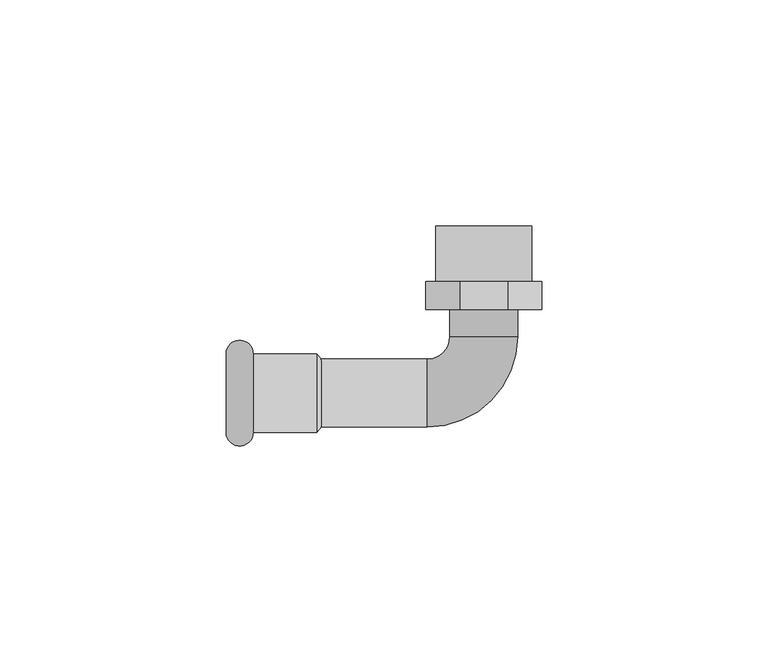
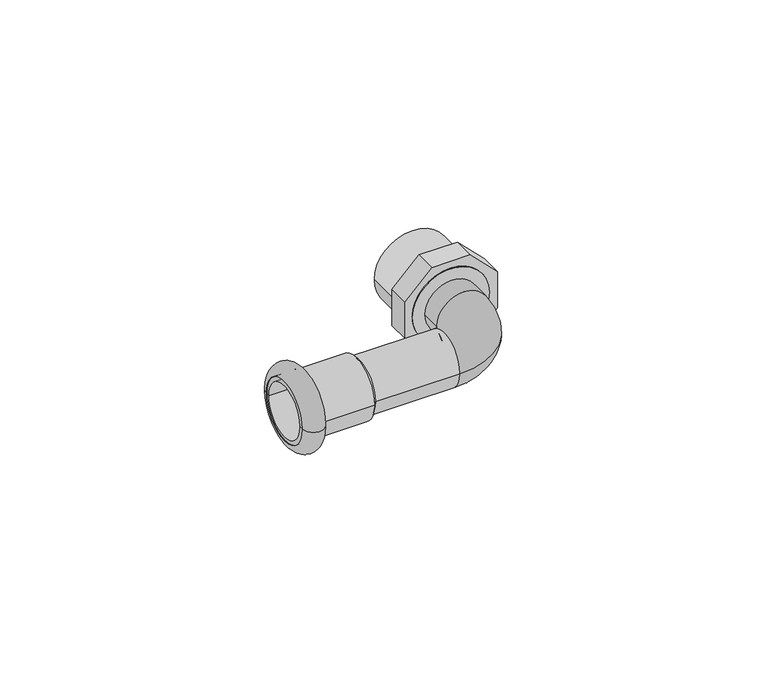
"""IFC4 building model written with IfcOpenShell, lengths in millimetres: pipe fitting geometry."""

import ifcopenshell
import ifcopenshell.guid

model = None  # the IFC model being written
_history = None  # IfcOwnerHistory: only IFC2X3 demands one
_inside = {}  # id of a spatial element -> (the spatial element, [elements in it])
_under = {}  # id of a project, library or spatial element -> (it, [spatial elements below it])
_declared = {}  # id of a project -> (the project, [libraries it declares])
_typed = {}  # id of a type object -> (the type object, [elements of that type])
_made_of = {}  # id of a material, layer set ... -> (it, [elements and type objects made of it])


def new_model(schema):
    """Start an empty IFC model of exactly this schema.

    Asked for "IFC4X3", IfcOpenShell would pick the latest addendum, in which some entities
    have other attributes; the version numbers below select the first issue.
    IFC2X3 requires an IfcOwnerHistory on every rooted entity: one is made here for all.
    """
    global model, _history
    if schema == "IFC4X3":
        model = ifcopenshell.file(schema_version=(4, 3, 0, 0))
    else:
        model = ifcopenshell.file(schema=schema)
    _inside.clear()
    _under.clear()
    _declared.clear()
    _typed.clear()
    _made_of.clear()
    _history = None
    if model.schema == "IFC2X3":
        org = make("IfcOrganization", Name="unknown")
        user = make(
            "IfcPersonAndOrganization",
            ThePerson=make("IfcPerson", FamilyName="unknown"),
            TheOrganization=org,
        )
        app = make(
            "IfcApplication",
            ApplicationDeveloper=org,
            Version="unknown",
            ApplicationFullName="unknown",
            ApplicationIdentifier="unknown",
        )
        _history = make(
            "IfcOwnerHistory",
            OwningUser=user,
            OwningApplication=app,
            ChangeAction="ADDED",
            CreationDate=0,
        )
    return model


def make(cls, **values):
    """One entity of the class cls with the attributes given. An attribute that is None is left unset."""
    return model.create_entity(
        cls, **{name: value for name, value in values.items() if value is not None}
    )


def rooted(cls, **values):
    """An entity with a GlobalId (a new one), such as an element, a storey or a relation."""
    return make(cls, GlobalId=ifcopenshell.guid.new(), OwnerHistory=_history, **values)


def si_unit(unit_type, name, prefix=None):
    """IfcSIUnit, for example si_unit("LENGTHUNIT", "METRE", prefix="MILLI")."""
    return make("IfcSIUnit", UnitType=unit_type, Prefix=prefix, Name=name)


def assignment(units):
    """IfcUnitAssignment: the units of a project."""
    return None if units is None else make("IfcUnitAssignment", Units=units)


def point(xyz):
    """IfcCartesianPoint."""
    return None if xyz is None else make("IfcCartesianPoint", Coordinates=xyz)


def direction(xyz):
    """IfcDirection."""
    return None if xyz is None else make("IfcDirection", DirectionRatios=xyz)


def frame(location, z_axis=None, x_axis=None):
    """IfcAxis2Placement3D, a coordinate frame: its origin and axes. An axis left out is left unset."""
    return make(
        "IfcAxis2Placement3D",
        Location=point(location),
        Axis=direction(z_axis),
        RefDirection=direction(x_axis),
    )


def frame_2d(location, x_axis=None):
    """IfcAxis2Placement2D, a coordinate frame in the plane: its origin and x axis."""
    return make(
        "IfcAxis2Placement2D", Location=point(location), RefDirection=direction(x_axis)
    )


def origin():
    """The frame at (0, 0, 0) with its axes left unset."""
    return frame((0.0, 0.0, 0.0))


def origin_2d():
    """The frame at (0, 0) in the plane with its x axis left unset."""
    return frame_2d((0.0, 0.0))


def place(relative_to, where):
    """IfcLocalPlacement: puts the frame where relative to a parent placement (None: the world)."""
    return make(
        "IfcLocalPlacement", PlacementRelTo=relative_to, RelativePlacement=where
    )


def context(
    kind, dimensions, precision=None, world=None, true_north=None, identifier=None
):
    """IfcGeometricRepresentationContext, for example the 3D "Model" context."""
    return make(
        "IfcGeometricRepresentationContext",
        ContextIdentifier=identifier,
        ContextType=kind,
        CoordinateSpaceDimension=dimensions,
        Precision=precision,
        WorldCoordinateSystem=world,
        TrueNorth=true_north,
    )


def project(units=None, contexts=None):
    """IfcProject with its units and contexts."""
    return rooted(
        "IfcProject",
        Name="project",
        RepresentationContexts=contexts,
        UnitsInContext=assignment(units),
    )


def spatial(cls, under=None, at=None, **own):
    """A site, building, storey or space (cls), placed at a placement, below another one or the project."""
    s = rooted(cls, ObjectPlacement=at, **own)
    if under is not None:
        _under.setdefault(under.id(), (under, []))[1].append(s)
    return s


def polyline(points):
    """IfcPolyline through the points."""
    return make("IfcPolyline", Points=[point(p) for p in points])


def circle_curve(where, radius):
    """IfcCircle in the frame where."""
    return make("IfcCircle", Position=where, Radius=radius)


def ellipse_curve(where, semi_axis1, semi_axis2):
    """IfcEllipse in the frame where."""
    return make(
        "IfcEllipse", Position=where, SemiAxis1=semi_axis1, SemiAxis2=semi_axis2
    )


def trimmed(basis, trim1, trim2, sense, master):
    """IfcTrimmedCurve: the piece of a basis curve between two trims."""
    return make(
        "IfcTrimmedCurve",
        BasisCurve=basis,
        Trim1=trim1,
        Trim2=trim2,
        SenseAgreement=sense,
        MasterRepresentation=master,
    )


def segment(curve, same_sense, transition):
    """IfcCompositeCurveSegment."""
    return make(
        "IfcCompositeCurveSegment",
        Transition=transition,
        SameSense=same_sense,
        ParentCurve=curve,
    )


def composite_curve(segments, self_intersect=None):
    """IfcCompositeCurve: segments joined end to end."""
    return make("IfcCompositeCurve", Segments=segments, SelfIntersect=self_intersect)


def outline(outer, holes=None, kind="AREA"):
    """IfcArbitraryClosedProfileDef: a profile drawn as a closed curve; with holes, ...WithVoids."""
    if holes is None:
        return make("IfcArbitraryClosedProfileDef", ProfileType=kind, OuterCurve=outer)
    return make(
        "IfcArbitraryProfileDefWithVoids",
        ProfileType=kind,
        OuterCurve=outer,
        InnerCurves=holes,
    )


def extrude(swept, where, along, depth):
    """IfcExtrudedAreaSolid: the profile swept, set in the frame where, extruded along a direction by depth."""
    return make(
        "IfcExtrudedAreaSolid",
        SweptArea=swept,
        Position=where,
        ExtrudedDirection=direction(along),
        Depth=depth,
    )


def shape(context_of_items, identifier, shape_type, items):
    """IfcShapeRepresentation: the items that make up one representation, for example the "Body"."""
    return make(
        "IfcShapeRepresentation",
        ContextOfItems=context_of_items,
        RepresentationIdentifier=identifier,
        RepresentationType=shape_type,
        Items=items,
    )


def source(mapping_origin, context_of_items, identifier, shape_type, items):
    """IfcRepresentationMap: a shape defined once, which mapped items show again and again."""
    return make(
        "IfcRepresentationMap",
        MappingOrigin=mapping_origin,
        MappedRepresentation=shape(context_of_items, identifier, shape_type, items),
    )


def transform(
    local_origin,
    x_axis=None,
    y_axis=None,
    z_axis=None,
    scale=None,
    scale2=None,
    scale3=None,
    uniform=True,
):
    """IfcCartesianTransformationOperator3D, or its non-uniform kind. x_axis, y_axis, z_axis: its Axis1, 2, 3."""
    if uniform:
        return make(
            "IfcCartesianTransformationOperator3D",
            Axis1=direction(x_axis),
            Axis2=direction(y_axis),
            LocalOrigin=point(local_origin),
            Scale=scale,
            Axis3=direction(z_axis),
        )
    return make(
        "IfcCartesianTransformationOperator3DnonUniform",
        Axis1=direction(x_axis),
        Axis2=direction(y_axis),
        LocalOrigin=point(local_origin),
        Scale=scale,
        Axis3=direction(z_axis),
        Scale2=scale2,
        Scale3=scale3,
    )


def mapped(mapping_source, mapping_target):
    """IfcMappedItem: shows the shape of a source again, moved by a transform."""
    return make(
        "IfcMappedItem", MappingSource=mapping_source, MappingTarget=mapping_target
    )


def made_of(thing, what):
    """Note that an element or type object is made of a material, layer set ...; save() writes the relation."""
    if what is not None:
        _made_of.setdefault(what.id(), (what, []))[1].append(thing)
    return thing


def element(
    cls,
    number,
    at=None,
    inside=None,
    cuts=None,
    type_object=None,
    material=None,
    context=None,
    identifier="Body",
    shape_type=None,
    held_by="IfcProductDefinitionShape",
    body=None,
    shapes=None,
    **own,
):
    """One element of the class cls, such as IfcWall. Its Tag is "e" and its number.

    at: its placement. inside: the storey or other place that contains it. cuts: it is an
    opening in that element (IfcRelVoidsElement). A single representation is given by context,
    identifier, shape_type and body (its items); several are given by shapes. held_by: the class
    of the entity that holds the representations. save() writes the other relations.
    """
    e = rooted(cls, Tag="e%d" % number, ObjectPlacement=at, **own)
    if body is not None:
        shapes = [shape(context, identifier, shape_type, body)]
    if shapes is not None:
        e.Representation = make(held_by, Representations=shapes)
    if inside is not None:
        _inside.setdefault(inside.id(), (inside, []))[1].append(e)
    if cuts is not None:
        rooted(
            "IfcRelVoidsElement", RelatingBuildingElement=cuts, RelatedOpeningElement=e
        )
    if type_object is not None:
        _typed.setdefault(type_object.id(), (type_object, []))[1].append(e)
    return made_of(e, material)


def aggregate(whole, parts):
    """IfcRelAggregates: a whole, such as a stair, and the parts it consists of."""
    return rooted("IfcRelAggregates", RelatingObject=whole, RelatedObjects=parts)


def save(model, path):
    """Write the relations noted so far, then the file.

    IfcRelAggregates (storeys below a building ...), IfcRelContainedInSpatialStructure (elements
    in a storey), IfcRelDefinesByType, IfcRelAssociatesMaterial and IfcRelDeclares: one each for
    every whole, place, type object, material and project.
    """
    for whole, parts in _under.values():
        aggregate(whole, parts)
    for where, things in _inside.values():
        rooted(
            "IfcRelContainedInSpatialStructure",
            RelatedElements=things,
            RelatingStructure=where,
        )
    for kind, things in _typed.values():
        rooted("IfcRelDefinesByType", RelatedObjects=things, RelatingType=kind)
    for what, things in _made_of.values():
        rooted("IfcRelAssociatesMaterial", RelatedObjects=things, RelatingMaterial=what)
    for by, libraries in _declared.values():
        rooted("IfcRelDeclares", RelatingContext=by, RelatedDefinitions=libraries)
    model.write(path)


def plane_surface(at):
    """IfcPlane: the flat surface through the origin of the frame at, square to its z axis."""
    return make("IfcPlane", Position=at)


def cylinder_surface(at, radius):
    """IfcCylindricalSurface: all points at the distance radius from the z axis of the frame at."""
    return make("IfcCylindricalSurface", Position=at, Radius=radius)


def revolved_surface(curve, axis_point, axis_direction):
    """IfcSurfaceOfRevolution: the curve turned about the line through axis_point along axis_direction."""
    return make(
        "IfcSurfaceOfRevolution",
        SweptCurve=make("IfcArbitraryOpenProfileDef", ProfileType="CURVE", Curve=curve),
        AxisPosition=make("IfcAxis1Placement", Location=point(axis_point), Axis=direction(axis_direction)),
    )


def advanced_brep(points, edges, surfaces, faces):
    """IfcAdvancedBrep: a solid bounded by faces that lie on surfaces and meet in shared edges.

    An edge is (start, end): straight between two places in points (the first is 0);
    or (start, end, curve); or (start, end, curve, False) where it runs against its curve.
    A face is (place in surfaces, loops), or (place, loops, False) where it looks against
    its surface's normal. A loop lists edges by number (the first is 1), with a minus sign
    where the edge is run from its end to its start. The first loop is the outer one.
    """
    corners = [point(p) for p in points]
    vertices = [make("IfcVertexPoint", VertexGeometry=c) for c in corners]
    made = []
    for start, end, *more in edges:
        made.append(
            make(
                "IfcEdgeCurve",
                EdgeStart=vertices[start],
                EdgeEnd=vertices[end],
                EdgeGeometry=more[0] if more else make("IfcPolyline", Points=[corners[start], corners[end]]),
                SameSense=more[1] if len(more) > 1 else True,
            )
        )
    hull = []
    for where, loops, *sense in faces:
        bounds = []
        for j, loop in enumerate(loops):
            ring = [make("IfcOrientedEdge", EdgeElement=made[abs(k) - 1], Orientation=k > 0) for k in loop]
            bounds.append(
                make(
                    "IfcFaceOuterBound" if j == 0 else "IfcFaceBound",
                    Bound=make("IfcEdgeLoop", EdgeList=ring),
                    Orientation=True,
                )
            )
        hull.append(make("IfcAdvancedFace", Bounds=bounds, FaceSurface=surfaces[where], SameSense=sense[0] if sense else True))
    return make("IfcAdvancedBrep", Outer=make("IfcClosedShell", CfsFaces=hull))


def pipe_fitting_1523a521(model_context):
    return source(origin(), model_context, "Body", "SolidModel", [
        advanced_brep(
        [(-57.0, 8.7, 0.0), (-57.0, -8.7, 0.0), (-50.9987073, -8.7, 0.0), (-50.9987073, 8.7, 0.0)],
        [
            (0, 1, circle_curve(frame((-57.0, 0.0, 0.0), z_axis=(-1.0, 0.0, 0.0), x_axis=(0.0, -1.0, 0.0)), 8.7)),
            (1, 2),
            (2, 3, circle_curve(frame((-50.9987073, 0.0, 0.0), z_axis=(1.0, 0.0, 0.0), x_axis=(0.0, -1.0, 0.0)), 8.7)),
            (3, 0),
            (1, 0, circle_curve(frame((-57.0, 0.0, 0.0), z_axis=(-1.0, 0.0, 0.0), x_axis=(0.0, -1.0, 0.0)), 8.7)),
            (3, 2, circle_curve(frame((-50.9987073, 0.0, 0.0), z_axis=(1.0, 0.0, 0.0), x_axis=(0.0, -1.0, 0.0)), 8.7)),
            (2, 1, circle_curve(frame((-53.9993536, -8.7, 0.0), z_axis=(0.0, 0.0, -1.0), x_axis=(-1.0, 0.0, 0.0)), 3.0006464)),
            (0, 3, circle_curve(frame((-53.9993536, 8.7, 0.0), z_axis=(0.0, 0.0, -1.0), x_axis=(-1.0, 0.0, 0.0)), 3.0006464)),
        ],
        [
            revolved_surface(polyline([(-50.9987073, -8.7, 0.0), (-57.0, -8.7, 0.0)]), (-37.0, 0.0, 0.0), (1.0, 0.0, 0.0)),
            revolved_surface(trimmed(ellipse_curve(frame((-53.9993536, -8.7, 0.0), z_axis=(0.0, 0.0, 1.0), x_axis=(-1.0, 0.0, 0.0)), 3.0006464, 3.0006464), [point((-57.0, -8.7, 0.0))], [point((-50.9987073, -8.7, 0.0))], True, "CARTESIAN"), (-37.0, 0.0, 0.0), (1.0, 0.0, 0.0)),
        ],
        [
            (0, [[1, 2, 3, 4]]),
            (0, [[5, -4, 6, -2]]),
            (1, [[-3, 7, -1, 8]]),
            (1, [[-6, -8, -5, -7]]),
        ],
    ),
        advanced_brep(
        [(-57.0, 7.5, 0.0), (-57.0, -7.5, 0.0), (-36.0, -7.5, 0.0), (-36.0, 7.5, 0.0), (-57.0, 8.7, 0.0), (-57.0, -8.7, 0.0), (-37.0, 8.7, 0.0), (-37.0, -8.7, 0.0)],
        [
            (0, 1, circle_curve(frame((-57.0, 0.0, 0.0), z_axis=(-1.0, 0.0, 0.0), x_axis=(0.0, -1.0, 0.0)), 7.5)),
            (1, 2),
            (2, 3, circle_curve(frame((-36.0, 0.0, 0.0), z_axis=(1.0, 0.0, 0.0), x_axis=(0.0, -1.0, 0.0)), 7.5)),
            (3, 0),
            (1, 0, circle_curve(frame((-57.0, 0.0, 0.0), z_axis=(-1.0, 0.0, 0.0), x_axis=(0.0, -1.0, 0.0)), 7.5)),
            (3, 2, circle_curve(frame((-36.0, 0.0, 0.0), z_axis=(1.0, 0.0, 0.0), x_axis=(0.0, -1.0, 0.0)), 7.5)),
            (4, 5, circle_curve(frame((-57.0, 0.0, 0.0), z_axis=(-1.0, 0.0, 0.0), x_axis=(0.0, -1.0, 0.0)), 8.7)),
            (5, 1),
            (0, 4),
            (5, 4, circle_curve(frame((-57.0, 0.0, 0.0), z_axis=(-1.0, 0.0, 0.0), x_axis=(0.0, -1.0, 0.0)), 8.7)),
            (6, 7, circle_curve(frame((-37.0, 0.0, 0.0), z_axis=(-1.0, 0.0, 0.0), x_axis=(0.0, -1.0, 0.0)), 8.7)),
            (7, 5),
            (4, 6),
            (7, 6, circle_curve(frame((-37.0, 0.0, 0.0), z_axis=(-1.0, 0.0, 0.0), x_axis=(0.0, -1.0, 0.0)), 8.7)),
            (2, 7),
            (6, 3),
        ],
        [
            revolved_surface(polyline([(-36.0, -7.5, 0.0), (-57.0, -7.5, 0.0)]), (-37.0, 0.0, 0.0), (1.0, 0.0, 0.0)),
            plane_surface(frame((-57.0, 0.0, 0.0), z_axis=(-1.0, 0.0, 0.0), x_axis=(0.0, -1.0, 0.0))),
            cylinder_surface(frame((-37.0, 0.0, 0.0), z_axis=(1.0, 0.0, 0.0), x_axis=(0.0, -1.0, 0.0)), 8.7),
            revolved_surface(polyline([(-37.0, -8.7, 0.0), (-36.0, -7.5, 0.0)]), (-37.0, 0.0, 0.0), (1.0, 0.0, 0.0)),
        ],
        [
            (0, [[1, 2, 3, 4]]),
            (0, [[5, -4, 6, -2]]),
            (1, [[7, 8, -1, 9]]),
            (1, [[10, -9, -5, -8]]),
            (2, [[11, 12, -7, 13]]),
            (2, [[14, -13, -10, -12]]),
            (3, [[-3, 15, -11, 16]]),
            (3, [[-6, -16, -14, -15]]),
        ],
    ),
        extrude(outline(composite_curve([segment(trimmed(circle_curve(origin_2d(), 10.65), [point((0.0, 10.65))], [point((0.0, -10.65))], False, "CARTESIAN"), True, "CONTINUOUS"), segment(trimmed(circle_curve(origin_2d(), 10.65), [point((0.0, -10.65))], [point((0.0, 10.65))], False, "CARTESIAN"), True, "CONTINUOUS")], self_intersect=False)), frame((0.0, 18.5, 0.0), z_axis=(0.0, 1.0, 0.0), x_axis=(0.0, 0.0, 1.0)), (0.0, 0.0, 1.0), 18.5),
        extrude(outline(polyline([(5.325, -12.8556872), (-5.325, -12.8556872), (-12.8556872, -5.325), (-12.8556872, 5.325), (-5.325, 12.8556872), (5.325, 12.8556872), (12.8556872, 5.325), (12.8556872, -5.325), (5.325, -12.8556872)]), holes=[composite_curve([segment(trimmed(circle_curve(origin_2d(), 10.65), [point((0.0, 10.65))], [point((0.0, -10.65))], True, "CARTESIAN"), True, "CONTINUOUS"), segment(trimmed(circle_curve(origin_2d(), 10.65), [point((0.0, -10.65))], [point((0.0, 10.65))], True, "CARTESIAN"), True, "CONTINUOUS")], self_intersect=False)]), frame((0.0, 18.5, 0.0), z_axis=(0.0, 1.0, 0.0), x_axis=(0.0, 0.0, 1.0)), (0.0, 0.0, 1.0), 6.1666667),
        advanced_brep(
        [(-7.5, 37.0, 0.0), (7.5, 37.0, 0.0), (-7.5, 12.5, 0.0), (7.5, 12.5, 0.0), (-12.5, -7.5, 0.0), (-12.5, 7.5, 0.0), (-37.0, 7.5, 0.0), (-37.0, -7.5, 0.0)],
        [
            (0, 1, circle_curve(frame((0.0, 37.0, 0.0), z_axis=(0.0, 1.0, 0.0), x_axis=(1.0, 0.0, 0.0)), 7.5)),
            (1, 0, circle_curve(frame((0.0, 37.0, 0.0), z_axis=(0.0, 1.0, 0.0), x_axis=(1.0, 0.0, 0.0)), 7.5)),
            (0, 2),
            (2, 3, circle_curve(frame((0.0, 12.5, 0.0), z_axis=(0.0, 1.0, 0.0), x_axis=(1.0, 0.0, 0.0)), 7.5)),
            (3, 1),
            (3, 2, circle_curve(frame((0.0, 12.5, 0.0), z_axis=(0.0, 1.0, 0.0), x_axis=(1.0, 0.0, 0.0)), 7.5)),
            (4, 3, circle_curve(frame((-12.5, 12.5, 0.0), z_axis=(0.0, 0.0, 1.0), x_axis=(1.0, 0.0, 0.0)), 20.0)),
            (2, 5, circle_curve(frame((-12.5, 12.5, 0.0), z_axis=(0.0, 0.0, -1.0), x_axis=(1.0, 0.0, 0.0)), 5.0)),
            (5, 4, circle_curve(frame((-12.5, 0.0, 0.0), z_axis=(1.0, 0.0, 0.0), x_axis=(0.0, -1.0, 0.0)), 7.5)),
            (4, 5, circle_curve(frame((-12.5, 0.0, 0.0), z_axis=(1.0, 0.0, 0.0), x_axis=(0.0, -1.0, 0.0)), 7.5)),
            (6, 7, circle_curve(frame((-37.0, 0.0, 0.0), z_axis=(-1.0, 0.0, 0.0), x_axis=(0.0, -1.0, 0.0)), 7.5)),
            (7, 6, circle_curve(frame((-37.0, 0.0, 0.0), z_axis=(-1.0, 0.0, 0.0), x_axis=(0.0, -1.0, 0.0)), 7.5)),
            (5, 6),
            (7, 4),
        ],
        [
            plane_surface(frame((0.0, 37.0, 0.0), z_axis=(0.0, 1.0, 0.0), x_axis=(0.0, 0.0, 1.0))),
            cylinder_surface(frame((0.0, 37.0, 0.0), z_axis=(0.0, 1.0, 0.0), x_axis=(1.0, 0.0, 0.0)), 7.5),
            revolved_surface(trimmed(ellipse_curve(frame((0.0, 12.5, 0.0), z_axis=(0.0, 1.0, 0.0), x_axis=(1.0, 0.0, 0.0)), 7.5, 7.5), [point((-7.5, 12.5, 0.0))], [point((7.5, 12.5, 0.0))], True, "CARTESIAN"), (-12.5, 12.5, 0.0), (0.0, 0.0, -1.0)),
            revolved_surface(trimmed(ellipse_curve(frame((0.0, 12.5, 0.0), z_axis=(0.0, 1.0, 0.0), x_axis=(1.0, 0.0, 0.0)), 7.5, 7.5), [point((7.5, 12.5, 0.0))], [point((-7.5, 12.5, 0.0))], True, "CARTESIAN"), (-12.5, 12.5, 0.0), (0.0, 0.0, -1.0)),
            plane_surface(frame((-37.0, 0.0, 0.0), z_axis=(-1.0, 0.0, 0.0), x_axis=(0.0, 0.0, 1.0))),
            cylinder_surface(frame((-12.5, 0.0, 0.0), z_axis=(1.0, 0.0, 0.0), x_axis=(0.0, -1.0, 0.0)), 7.5),
        ],
        [
            (0, [[1, 2]]),
            (1, [[-1, 3, 4, 5]]),
            (1, [[-2, -5, 6, -3]]),
            (2, [[7, -4, 8, 9]]),
            (3, [[-8, -6, -7, 10]]),
            (4, [[11, 12]]),
            (5, [[-9, 13, -12, 14]]),
            (5, [[-10, -14, -11, -13]]),
        ],
    ),
    ])


if __name__ == "__main__":
    model = new_model("IFC4")
    model_context = context("Model", 3, world=origin())
    ifc_project = project(units=[si_unit("LENGTHUNIT", "METRE", prefix="MILLI")], contexts=[model_context])
    site = spatial("IfcSite", under=ifc_project)
    building = spatial("IfcBuilding", under=site)
    placement = place(None, origin())
    pipe_fitting_shape = pipe_fitting_1523a521(model_context)
    element("IfcPipeFitting", 1, ObjectType="NLRS_50_PIF_UN_Geberit Mapress Therm overgangsknie 90° met buitendraad_PRO_3208047 : DN12-50 / R½\"-2\" / d15-54 / R½\"-2\" - OD", at=placement, inside=building, context=model_context, shape_type="MappedRepresentation", body=[
        mapped(pipe_fitting_shape, transform((0.0, 0.0, 0.0), x_axis=(1.0, 0.0, 0.0), y_axis=(0.0, 1.0, 0.0), z_axis=(0.0, 0.0, 1.0))),
    ])
    save(model, "model.ifc")
